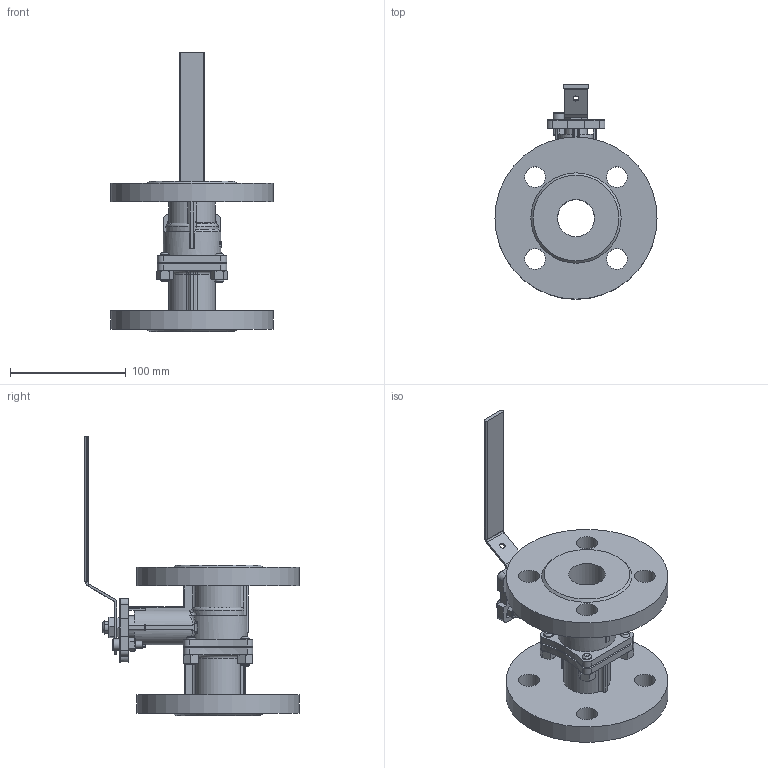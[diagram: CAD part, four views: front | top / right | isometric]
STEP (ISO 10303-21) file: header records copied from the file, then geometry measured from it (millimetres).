
FILE_DESCRIPTION(('STEP AP242'), '1');
FILE_NAME('BV3232P(2pc)-FP-F-ISO-H Êðàí øàðîâîé DN.ru Äó32 Ðó40', '', ('UNSPECIFIED'), ('UNSPECIFIED'), 'C3D Converter', 'C3D Toolkit', '');
FILE_SCHEMA(('AP242_MANAGED_MODEL_BASED_3D_ENGINEERING_MIM_LF { 1 0 10303 442 1 1 4 }'));
Length unit declared in the file: millimetre
Products named in the file (1): BV3232P(2pc)-FP-F-ISO-H
Bounding box: 140 x 185 x 241.06 mm (x, y, z)
Volume: 600588.9 mm3; surface area: 140039.1 mm2
Topology: 1 solids, 1 shells, 642 faces, 1611 edges, 1003 vertices
Faces by surface type: plane 318, cylinder 152, cone 82, bspline 60, torus 22, sphere 8
Full cylindrical faces by diameter (mm): 5 x1, 6 x3, 8 x11, 10 x1, 12 x1, 18 x8, 20 x2, 22 x1, 23 x2, 32 x1, 50 x1, 140 x2
Entity records: 33123 total; most frequent: CARTESIAN_POINT 15311, ORIENTED_EDGE 3084, DIRECTION 2842, EDGE_CURVE 1542, AXIS2_PLACEMENT_3D 1041, VERTEX_POINT 994, EDGE_LOOP 782, LINE 760
